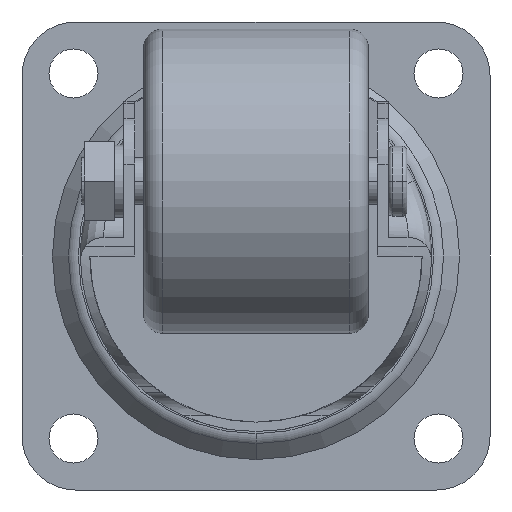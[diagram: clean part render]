
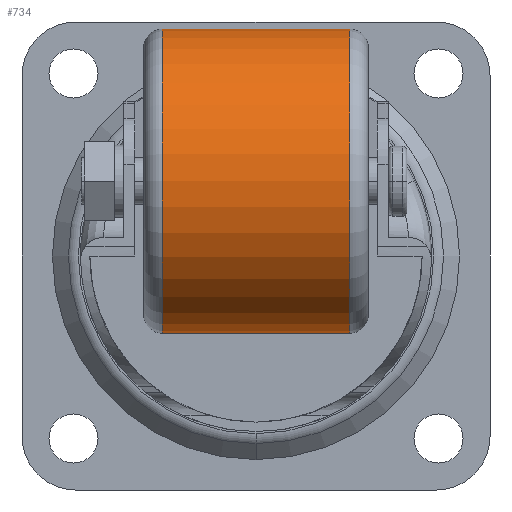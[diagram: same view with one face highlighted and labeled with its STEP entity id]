
A CAD part, front view. The second image highlights one B-rep face of the part: STEP entity #734.
In plain terms, the highlighted cylindrical face has radius 32.5 mm (diameter 65 mm), a partial arc.
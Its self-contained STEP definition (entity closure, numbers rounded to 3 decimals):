
#215 = DIRECTION ( 'NONE',  ( -1., 0., 0. ) ) ;
#324 = VERTEX_POINT ( 'NONE', #3521 ) ;
#377 = ORIENTED_EDGE ( 'NONE', *, *, #542, .T. ) ;
#468 = VERTEX_POINT ( 'NONE', #3942 ) ;
#542 = EDGE_CURVE ( 'NONE', #1690, #2545, #1267, .T. ) ;
#734 = ADVANCED_FACE ( 'NONE', ( #2171 ), #2610, .T. ) ;
#824 = DIRECTION ( 'NONE',  ( 0., 0., -1. ) ) ;
#829 = DIRECTION ( 'NONE',  ( 1., 0., 0. ) ) ;
#905 = CARTESIAN_POINT ( 'NONE',  ( 24., 0., 0. ) ) ;
#954 = LINE ( 'NONE', #2328, #2716 ) ;
#1018 = CARTESIAN_POINT ( 'NONE',  ( -20., 0., -32.5 ) ) ;
#1267 = CIRCLE ( 'NONE', #2128, 32.5 ) ;
#1304 = EDGE_LOOP ( 'NONE', ( #2384, #1308, #3602, #377 ) ) ;
#1308 = ORIENTED_EDGE ( 'NONE', *, *, #3385, .T. ) ;
#1393 = CARTESIAN_POINT ( 'NONE',  ( 24., 0., -32.5 ) ) ;
#1489 = CARTESIAN_POINT ( 'NONE',  ( 20., 0., 0. ) ) ;
#1690 = VERTEX_POINT ( 'NONE', #3920 ) ;
#2128 = AXIS2_PLACEMENT_3D ( 'NONE', #2528, #829, #3845 ) ;
#2171 = FACE_OUTER_BOUND ( 'NONE', #1304, .T. ) ;
#2308 = EDGE_CURVE ( 'NONE', #468, #2545, #2834, .T. ) ;
#2328 = CARTESIAN_POINT ( 'NONE',  ( 24., 0., 32.5 ) ) ;
#2384 = ORIENTED_EDGE ( 'NONE', *, *, #2308, .F. ) ;
#2438 = AXIS2_PLACEMENT_3D ( 'NONE', #1489, #4223, #824 ) ;
#2528 = CARTESIAN_POINT ( 'NONE',  ( -20., 0., 0. ) ) ;
#2545 = VERTEX_POINT ( 'NONE', #1018 ) ;
#2568 = EDGE_CURVE ( 'NONE', #324, #1690, #954, .T. ) ;
#2610 = CYLINDRICAL_SURFACE ( 'NONE', #2632, 32.5 ) ;
#2632 = AXIS2_PLACEMENT_3D ( 'NONE', #905, #215, #3641 ) ;
#2681 = DIRECTION ( 'NONE',  ( -1., 0., 0. ) ) ;
#2716 = VECTOR ( 'NONE', #2681, 1000. ) ;
#2834 = LINE ( 'NONE', #1393, #3140 ) ;
#3140 = VECTOR ( 'NONE', #4195, 1000. ) ;
#3385 = EDGE_CURVE ( 'NONE', #468, #324, #3649, .T. ) ;
#3521 = CARTESIAN_POINT ( 'NONE',  ( 20., 0., 32.5 ) ) ;
#3602 = ORIENTED_EDGE ( 'NONE', *, *, #2568, .T. ) ;
#3641 = DIRECTION ( 'NONE',  ( 0., 0., 1. ) ) ;
#3649 = CIRCLE ( 'NONE', #2438, 32.5 ) ;
#3845 = DIRECTION ( 'NONE',  ( 0., 0., -1. ) ) ;
#3920 = CARTESIAN_POINT ( 'NONE',  ( -20., 0., 32.5 ) ) ;
#3942 = CARTESIAN_POINT ( 'NONE',  ( 20., 0., -32.5 ) ) ;
#4195 = DIRECTION ( 'NONE',  ( -1., 0., 0. ) ) ;
#4223 = DIRECTION ( 'NONE',  ( -1., 0., 0. ) ) ;
